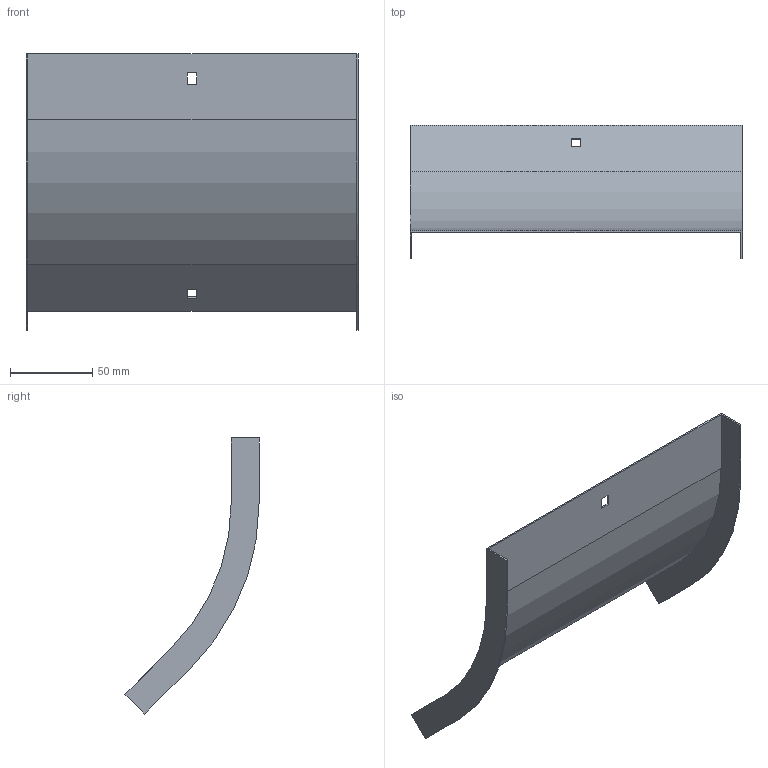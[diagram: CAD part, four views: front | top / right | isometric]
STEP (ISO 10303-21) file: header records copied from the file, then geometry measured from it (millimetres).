
FILE_DESCRIPTION (( 'STEP AP214' ), '1' );
FILE_NAME ('OS4_200.step', '2025-07-16T09:16:35', ( '' ), ( '' ), 'SwSTEP 2.0', 'SolidWorks 2023', '' );
FILE_SCHEMA (( 'AUTOMOTIVE_DESIGN' ));
Length unit declared in the file: millimetre
Products named in the file (1): OS4_200
Bounding box: 202 x 81.6 x 167.99 mm (x, y, z)
Volume: 41730.6 mm3; surface area: 84362 mm2
Topology: 1 solids, 1 shells, 26 faces, 72 edges, 48 vertices
Faces by surface type: plane 22, cylinder 4
Entity records: 855 total; most frequent: CARTESIAN_POINT 147, ORIENTED_EDGE 144, DIRECTION 134, EDGE_CURVE 72, LINE 64, VECTOR 64, VERTEX_POINT 48, AXIS2_PLACEMENT_3D 35
